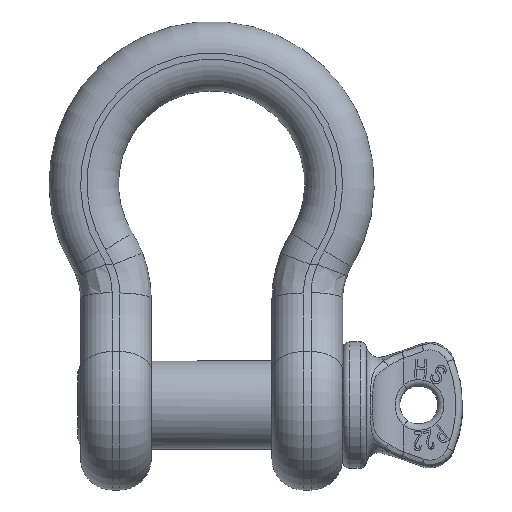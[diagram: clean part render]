
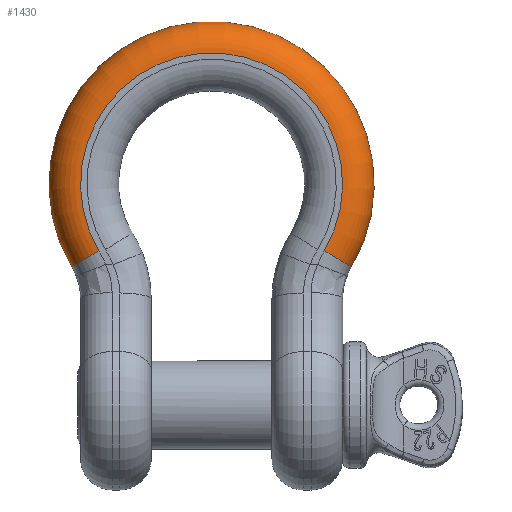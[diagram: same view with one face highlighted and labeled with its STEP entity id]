
A CAD part, top view. The second image highlights one B-rep face of the part: STEP entity #1430.
In plain terms, the highlighted toroidal (fillet/blend) face has major radius 20.75 mm and minor radius 5 mm.
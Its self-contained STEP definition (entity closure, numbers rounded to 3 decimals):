
#379=TOROIDAL_SURFACE('',#10248,20.75,5.);
#1430=ADVANCED_FACE('',(#2207),#379,.T.);
#2207=FACE_OUTER_BOUND('',#2732,.T.);
#2732=EDGE_LOOP('',(#4081,#4082,#4083,#4084));
#3310=CIRCLE('',#10161,20.75);
#3321=CIRCLE('',#10175,25.75);
#3367=CIRCLE('',#10246,5.);
#3368=CIRCLE('',#10247,5.);
#4081=ORIENTED_EDGE('',*,*,#7902,.T.);
#4082=ORIENTED_EDGE('',*,*,#7816,.F.);
#4083=ORIENTED_EDGE('',*,*,#7903,.F.);
#4084=ORIENTED_EDGE('',*,*,#7833,.F.);
#6789=VERTEX_POINT('',#15027);
#6790=VERTEX_POINT('',#15029);
#6801=VERTEX_POINT('',#15058);
#6803=VERTEX_POINT('',#15067);
#7816=EDGE_CURVE('',#6789,#6790,#3310,.T.);
#7833=EDGE_CURVE('',#6803,#6801,#3321,.T.);
#7902=EDGE_CURVE('',#6803,#6790,#3367,.T.);
#7903=EDGE_CURVE('',#6801,#6789,#3368,.T.);
#10161=AXIS2_PLACEMENT_3D('',#15028,#10903,#10904);
#10175=AXIS2_PLACEMENT_3D('',#15068,#10935,#10936);
#10246=AXIS2_PLACEMENT_3D('',#15291,#11086,#11087);
#10247=AXIS2_PLACEMENT_3D('',#15292,#11088,#11089);
#10248=AXIS2_PLACEMENT_3D('',#15293,#11090,#11091);
#10903=DIRECTION('',(0.,0.,1.));
#10904=DIRECTION('',(-1.,0.,0.));
#10935=DIRECTION('',(0.,0.,-1.));
#10936=DIRECTION('',(-1.,0.,0.));
#11086=DIRECTION('',(-0.51,0.86,0.));
#11087=DIRECTION('',(0.86,0.51,0.));
#11088=DIRECTION('',(-0.51,-0.86,0.));
#11089=DIRECTION('',(0.86,-0.51,0.));
#11090=DIRECTION('',(0.,0.,-1.));
#11091=DIRECTION('',(-1.,0.,0.));
#15027=CARTESIAN_POINT('',(17.848,-10.584,5.6));
#15028=CARTESIAN_POINT('',(0.,0.,5.6));
#15029=CARTESIAN_POINT('',(-17.848,-10.584,5.6));
#15058=CARTESIAN_POINT('',(22.149,-13.134,0.6));
#15067=CARTESIAN_POINT('',(-22.149,-13.134,0.6));
#15068=CARTESIAN_POINT('',(0.,0.,0.6));
#15291=CARTESIAN_POINT('',(-17.848,-10.584,0.6));
#15292=CARTESIAN_POINT('',(17.848,-10.584,0.6));
#15293=CARTESIAN_POINT('',(0.,0.,0.6));
